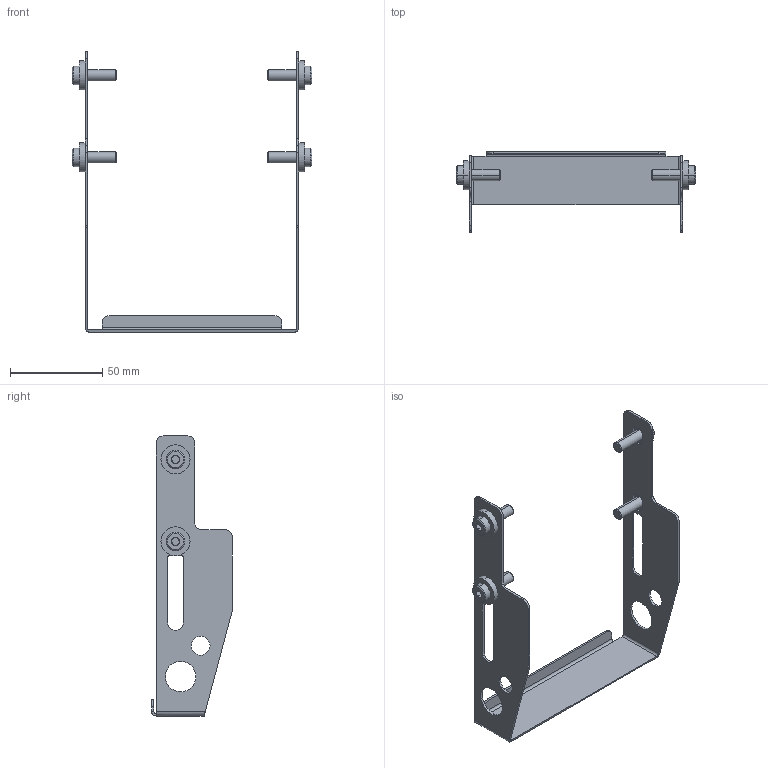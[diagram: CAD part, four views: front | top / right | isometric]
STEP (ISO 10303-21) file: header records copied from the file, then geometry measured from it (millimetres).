
FILE_DESCRIPTION((''),'2;1');
FILE_NAME('207218-04_ASM','2016-07-07T',('adam.dellomodarme'),(''),'PRO/ENGINEER BY PARAMETRIC TECHNOLOGY CORPORATION, 2012420','PRO/ENGINEER BY PARAMETRIC TECHNOLOGY CORPORATION, 2012420','');
FILE_SCHEMA(('CONFIG_CONTROL_DESIGN'));
Length unit declared in the file: inch
Products named in the file (5): 605279P; 207125_207125-04; 9506XXM_950620M; ASM0003_ASM; 207218-04_ASM
Assembly tree (10 placements, depth 3):
  207218-04_ASM
    ASM0003_ASM
      605279P  x4
      207125_207125-04
      9506XXM_950620M  x4
Bounding box: 129.95 x 43.71 x 151.79 mm (x, y, z)
Volume: 19689.1 mm3; surface area: 30304.2 mm2
Topology: 9 solids, 9 shells, 212 faces, 492 edges, 306 vertices
Faces by surface type: plane 90, cylinder 78, cone 44
Entity records: 3973 total; most frequent: CARTESIAN_POINT 725, DIRECTION 705, ORIENTED_EDGE 618, EDGE_CURVE 309, AXIS2_PLACEMENT_3D 265, VERTEX_POINT 198, VECTOR 175, LINE 175
